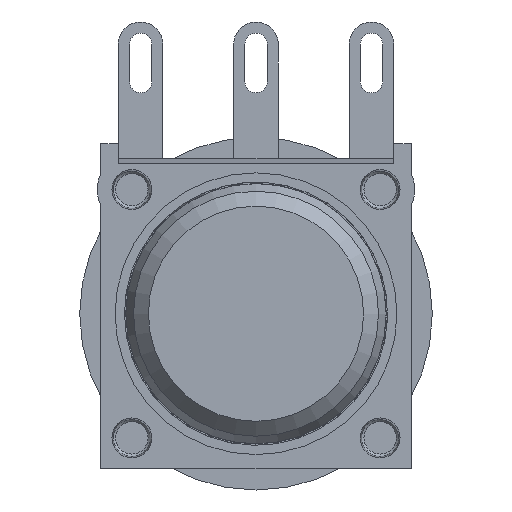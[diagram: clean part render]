
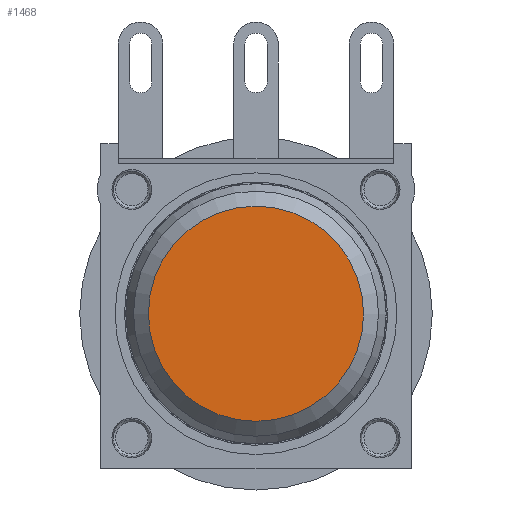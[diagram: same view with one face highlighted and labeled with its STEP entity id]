
A CAD part, left-side view. The second image highlights one B-rep face of the part: STEP entity #1468.
In plain terms, the highlighted planar face has unit normal (-1, 0, 0) as drawn and (0, 0, 1) by its records, which use the part's own axes.
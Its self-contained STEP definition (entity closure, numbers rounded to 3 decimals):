
#1468 = ADVANCED_FACE( '', ( #3242 ), #3243, .T. );
#3242 = FACE_OUTER_BOUND( '', #6017, .T. );
#3243 = PLANE( '', #6018 );
#6017 = EDGE_LOOP( '', ( #10843 ) );
#6018 = AXIS2_PLACEMENT_3D( '', #10844, #10845, #10846 );
#10843 = ORIENTED_EDGE( '', *, *, #14397, .T. );
#10844 = CARTESIAN_POINT( '', ( 0., 0., 1.4 ) );
#10845 = DIRECTION( '', ( 0., 0., 1. ) );
#10846 = DIRECTION( '', ( 1., 0., 0. ) );
#14397 = EDGE_CURVE( '', #16967, #16967, #16968, .T. );
#16967 = VERTEX_POINT( '', #20836 );
#16968 = CIRCLE( '', #20837, 4.334 );
#20836 = CARTESIAN_POINT( '', ( 4.334, 0., 1.4 ) );
#20837 = AXIS2_PLACEMENT_3D( '', #27330, #27331, #27332 );
#27330 = CARTESIAN_POINT( '', ( 0., 0., 1.4 ) );
#27331 = DIRECTION( '', ( 0., 0., 1. ) );
#27332 = DIRECTION( '', ( 1., 0., 0. ) );
